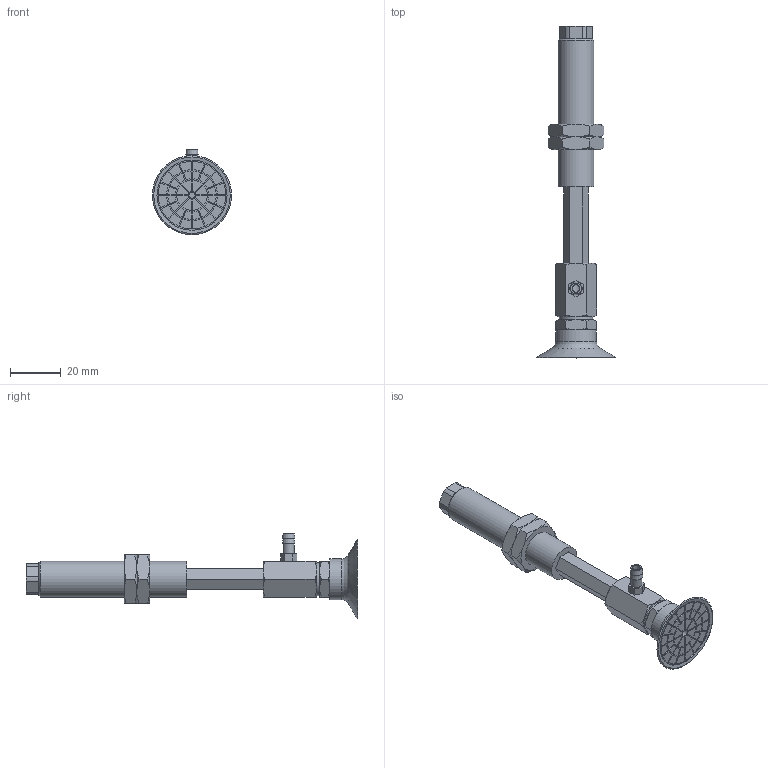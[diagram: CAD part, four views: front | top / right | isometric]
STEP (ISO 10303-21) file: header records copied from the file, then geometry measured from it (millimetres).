
FILE_DESCRIPTION(('STEP AP203'),'1');
FILE_NAME('-T.stp','2025-03-13T07:54:59',(' '),(' '),'Spatial InterOp 3D',' ',' ');
FILE_SCHEMA(('CONFIG_CONTROL_DESIGN'));
Length unit declared in the file: millimetre
Products named in the file (8): BNABPAYH-30B-30-※-T; NAPATH-30B-30--M; NAPATH-30B-30--F; Nut-25-S; CONNECTOR-30B-30-PA; TN-PA-30B-M6; CONNECTOR-10A-3-T-PA; BPAG-30B-※
Assembly tree (8 placements, depth 2):
  BNABPAYH-30B-30-※-T
    NAPATH-30B-30--M
    NAPATH-30B-30--F
    Nut-25-S  x2
    CONNECTOR-30B-30-PA
    TN-PA-30B-M6
    CONNECTOR-10A-3-T-PA
    BPAG-30B-※
Bounding box: 31.04 x 130.2 x 33.52 mm (x, y, z)
Volume: 19968.9 mm3; surface area: 15437.2 mm2
Topology: 8 solids, 8 shells, 392 faces, 908 edges, 581 vertices
Faces by surface type: plane 219, cylinder 99, cone 68, torus 6
Full cylindrical faces by diameter (mm): 2.5 x1, 3 x3, 4.134 x2, 4.3 x1, 4.917 x1, 5 x2, 6 x3, 10 x2, 12.917 x2, 13 x1, 14 x1, 16 x1, 27.5 x1
Entity records: 10940 total; most frequent: CARTESIAN_POINT 2177, DIRECTION 1768, ORIENTED_EDGE 1622, EDGE_CURVE 811, AXIS2_PLACEMENT_3D 654, VERTEX_POINT 547, EDGE_LOOP 474, LINE 460
